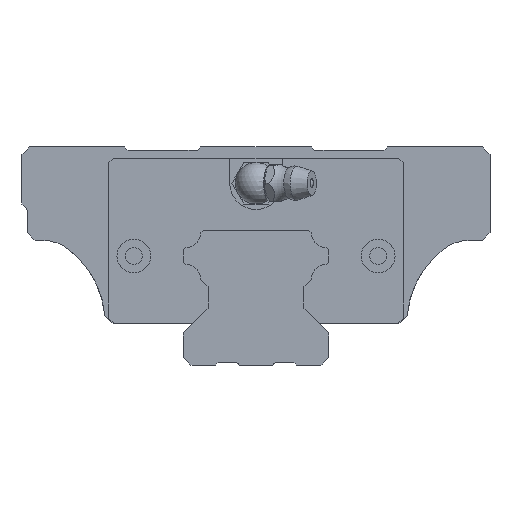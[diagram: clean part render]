
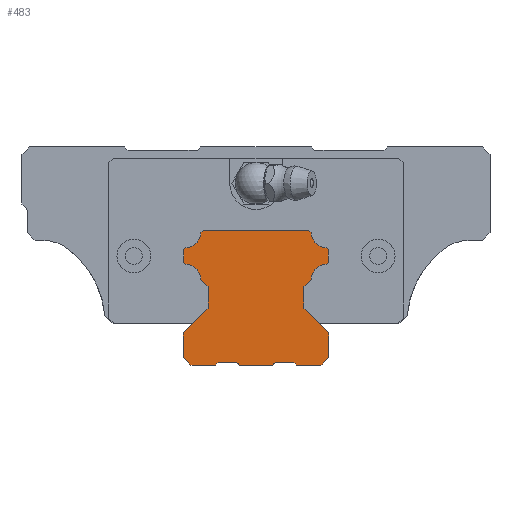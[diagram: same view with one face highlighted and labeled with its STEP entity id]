
A CAD part, front view. The second image highlights one B-rep face of the part: STEP entity #483.
In plain terms, the highlighted planar face has unit normal (0, -1, 0).
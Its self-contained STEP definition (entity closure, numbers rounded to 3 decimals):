
#314=CIRCLE('',#3957,3.1);
#316=CIRCLE('',#3963,3.1);
#327=CIRCLE('',#3996,3.1);
#329=CIRCLE('',#4002,3.1);
#483=ADVANCED_FACE('',(#832),#673,.T.);
#673=PLANE('',#4004);
#832=FACE_OUTER_BOUND('',#1027,.T.);
#1027=EDGE_LOOP('',(#1540,#1541,#1542,#1543,#1544,#1545,#1546,#1547,#1548,
#1549,#1550,#1551,#1552,#1553,#1554,#1555,#1556,#1557,#1558,#1559,#1560,
#1561,#1562,#1563,#1564,#1565,#1566,#1567,#1568,#1569,#1570,#1571));
#1540=ORIENTED_EDGE('',*,*,#2735,.T.);
#1541=ORIENTED_EDGE('',*,*,#2743,.F.);
#1542=ORIENTED_EDGE('',*,*,#2746,.F.);
#1543=ORIENTED_EDGE('',*,*,#2749,.F.);
#1544=ORIENTED_EDGE('',*,*,#2752,.F.);
#1545=ORIENTED_EDGE('',*,*,#2755,.T.);
#1546=ORIENTED_EDGE('',*,*,#2758,.T.);
#1547=ORIENTED_EDGE('',*,*,#2761,.F.);
#1548=ORIENTED_EDGE('',*,*,#2764,.T.);
#1549=ORIENTED_EDGE('',*,*,#2767,.T.);
#1550=ORIENTED_EDGE('',*,*,#2770,.F.);
#1551=ORIENTED_EDGE('',*,*,#2773,.T.);
#1552=ORIENTED_EDGE('',*,*,#2776,.T.);
#1553=ORIENTED_EDGE('',*,*,#2779,.F.);
#1554=ORIENTED_EDGE('',*,*,#2782,.T.);
#1555=ORIENTED_EDGE('',*,*,#2786,.T.);
#1556=ORIENTED_EDGE('',*,*,#2725,.F.);
#1557=ORIENTED_EDGE('',*,*,#2793,.T.);
#1558=ORIENTED_EDGE('',*,*,#2732,.T.);
#1559=ORIENTED_EDGE('',*,*,#2801,.F.);
#1560=ORIENTED_EDGE('',*,*,#2806,.F.);
#1561=ORIENTED_EDGE('',*,*,#2809,.T.);
#1562=ORIENTED_EDGE('',*,*,#2812,.F.);
#1563=ORIENTED_EDGE('',*,*,#2815,.F.);
#1564=ORIENTED_EDGE('',*,*,#2818,.F.);
#1565=ORIENTED_EDGE('',*,*,#2821,.F.);
#1566=ORIENTED_EDGE('',*,*,#2824,.F.);
#1567=ORIENTED_EDGE('',*,*,#2827,.F.);
#1568=ORIENTED_EDGE('',*,*,#2830,.F.);
#1569=ORIENTED_EDGE('',*,*,#2833,.F.);
#1570=ORIENTED_EDGE('',*,*,#2836,.T.);
#1571=ORIENTED_EDGE('',*,*,#2838,.F.);
#2332=VERTEX_POINT('',#5663);
#2333=VERTEX_POINT('',#5665);
#2334=VERTEX_POINT('',#5672);
#2337=VERTEX_POINT('',#5677);
#2340=VERTEX_POINT('',#5684);
#2341=VERTEX_POINT('',#5686);
#2347=VERTEX_POINT('',#5700);
#2349=VERTEX_POINT('',#5706);
#2351=VERTEX_POINT('',#5712);
#2353=VERTEX_POINT('',#5718);
#2355=VERTEX_POINT('',#5724);
#2357=VERTEX_POINT('',#5730);
#2359=VERTEX_POINT('',#5736);
#2361=VERTEX_POINT('',#5742);
#2363=VERTEX_POINT('',#5748);
#2365=VERTEX_POINT('',#5754);
#2367=VERTEX_POINT('',#5760);
#2369=VERTEX_POINT('',#5766);
#2371=VERTEX_POINT('',#5772);
#2373=VERTEX_POINT('',#5778);
#2379=VERTEX_POINT('',#5808);
#2381=VERTEX_POINT('',#5816);
#2383=VERTEX_POINT('',#5822);
#2385=VERTEX_POINT('',#5828);
#2387=VERTEX_POINT('',#5834);
#2389=VERTEX_POINT('',#5840);
#2391=VERTEX_POINT('',#5846);
#2393=VERTEX_POINT('',#5852);
#2395=VERTEX_POINT('',#5858);
#2397=VERTEX_POINT('',#5864);
#2399=VERTEX_POINT('',#5870);
#2401=VERTEX_POINT('',#5876);
#2725=EDGE_CURVE('',#2332,#2333,#3198,.T.);
#2732=EDGE_CURVE('',#2334,#2337,#3202,.T.);
#2735=EDGE_CURVE('',#2341,#2340,#3205,.T.);
#2743=EDGE_CURVE('',#2347,#2340,#3209,.T.);
#2746=EDGE_CURVE('',#2349,#2347,#3212,.T.);
#2749=EDGE_CURVE('',#2351,#2349,#314,.T.);
#2752=EDGE_CURVE('',#2353,#2351,#3216,.T.);
#2755=EDGE_CURVE('',#2353,#2355,#3219,.T.);
#2758=EDGE_CURVE('',#2355,#2357,#3222,.T.);
#2761=EDGE_CURVE('',#2359,#2357,#316,.T.);
#2764=EDGE_CURVE('',#2359,#2361,#3226,.T.);
#2767=EDGE_CURVE('',#2361,#2363,#3229,.T.);
#2770=EDGE_CURVE('',#2365,#2363,#3232,.T.);
#2773=EDGE_CURVE('',#2365,#2367,#3235,.T.);
#2776=EDGE_CURVE('',#2367,#2369,#3238,.T.);
#2779=EDGE_CURVE('',#2371,#2369,#3241,.T.);
#2782=EDGE_CURVE('',#2371,#2373,#3244,.T.);
#2786=EDGE_CURVE('',#2373,#2333,#3245,.T.);
#2793=EDGE_CURVE('',#2332,#2334,#3249,.T.);
#2801=EDGE_CURVE('',#2379,#2337,#3254,.T.);
#2806=EDGE_CURVE('',#2381,#2379,#3257,.T.);
#2809=EDGE_CURVE('',#2381,#2383,#3260,.T.);
#2812=EDGE_CURVE('',#2385,#2383,#3263,.T.);
#2815=EDGE_CURVE('',#2387,#2385,#3266,.T.);
#2818=EDGE_CURVE('',#2389,#2387,#3269,.T.);
#2821=EDGE_CURVE('',#2391,#2389,#3272,.T.);
#2824=EDGE_CURVE('',#2393,#2391,#3275,.T.);
#2827=EDGE_CURVE('',#2395,#2393,#327,.T.);
#2830=EDGE_CURVE('',#2397,#2395,#3279,.T.);
#2833=EDGE_CURVE('',#2399,#2397,#3282,.T.);
#2836=EDGE_CURVE('',#2399,#2401,#3285,.T.);
#2838=EDGE_CURVE('',#2341,#2401,#329,.T.);
#3198=LINE('',#5664,#3557);
#3202=LINE('',#5678,#3561);
#3205=LINE('',#5685,#3564);
#3209=LINE('',#5701,#3568);
#3212=LINE('',#5707,#3571);
#3216=LINE('',#5719,#3575);
#3219=LINE('',#5725,#3578);
#3222=LINE('',#5731,#3581);
#3226=LINE('',#5743,#3585);
#3229=LINE('',#5749,#3588);
#3232=LINE('',#5755,#3591);
#3235=LINE('',#5761,#3594);
#3238=LINE('',#5767,#3597);
#3241=LINE('',#5773,#3600);
#3244=LINE('',#5779,#3603);
#3245=LINE('',#5784,#3604);
#3249=LINE('',#5795,#3608);
#3254=LINE('',#5809,#3613);
#3257=LINE('',#5817,#3616);
#3260=LINE('',#5823,#3619);
#3263=LINE('',#5829,#3622);
#3266=LINE('',#5835,#3625);
#3269=LINE('',#5841,#3628);
#3272=LINE('',#5847,#3631);
#3275=LINE('',#5853,#3634);
#3279=LINE('',#5865,#3638);
#3282=LINE('',#5871,#3641);
#3285=LINE('',#5877,#3644);
#3557=VECTOR('',#4423,1.);
#3561=VECTOR('',#4437,1.);
#3564=VECTOR('',#4442,1.);
#3568=VECTOR('',#4456,1.);
#3571=VECTOR('',#4461,1.);
#3575=VECTOR('',#4473,1.);
#3578=VECTOR('',#4478,1.);
#3581=VECTOR('',#4483,1.);
#3585=VECTOR('',#4495,1.);
#3588=VECTOR('',#4500,1.);
#3591=VECTOR('',#4505,1.);
#3594=VECTOR('',#4510,1.);
#3597=VECTOR('',#4515,1.);
#3600=VECTOR('',#4520,1.);
#3603=VECTOR('',#4525,1.);
#3604=VECTOR('',#4534,1.);
#3608=VECTOR('',#4548,1.);
#3613=VECTOR('',#4563,1.);
#3616=VECTOR('',#4572,1.);
#3619=VECTOR('',#4577,1.);
#3622=VECTOR('',#4582,1.);
#3625=VECTOR('',#4587,1.);
#3628=VECTOR('',#4592,1.);
#3631=VECTOR('',#4597,1.);
#3634=VECTOR('',#4602,1.);
#3638=VECTOR('',#4614,1.);
#3641=VECTOR('',#4619,1.);
#3644=VECTOR('',#4624,1.);
#3957=AXIS2_PLACEMENT_3D('',#5713,#4467,#4468);
#3963=AXIS2_PLACEMENT_3D('',#5737,#4489,#4490);
#3996=AXIS2_PLACEMENT_3D('',#5859,#4608,#4609);
#4002=AXIS2_PLACEMENT_3D('',#5880,#4629,#4630);
#4004=AXIS2_PLACEMENT_3D('',#5882,#4633,#4634);
#4423=DIRECTION('',(-0.707,0.,0.707));
#4437=DIRECTION('',(0.707,0.,0.707));
#4442=DIRECTION('',(-0.707,0.,0.707));
#4456=DIRECTION('',(1.,0.,0.));
#4461=DIRECTION('',(0.707,0.,0.707));
#4467=DIRECTION('',(0.,-1.,0.));
#4468=DIRECTION('',(1.,0.,0.));
#4473=DIRECTION('',(0.707,0.,0.707));
#4478=DIRECTION('',(0.,0.,-1.));
#4483=DIRECTION('',(0.707,0.,-0.707));
#4489=DIRECTION('',(0.,-1.,0.));
#4490=DIRECTION('',(1.,0.,0.));
#4495=DIRECTION('',(0.707,0.,-0.707));
#4500=DIRECTION('',(0.,0.,-1.));
#4505=DIRECTION('',(0.707,0.,0.707));
#4510=DIRECTION('',(0.,0.,-1.));
#4515=DIRECTION('',(0.707,0.,-0.707));
#4520=DIRECTION('',(-1.,0.,0.));
#4525=DIRECTION('',(0.707,0.,0.707));
#4534=DIRECTION('',(1.,0.,0.));
#4548=DIRECTION('',(1.,0.,0.));
#4563=DIRECTION('',(-1.,0.,0.));
#4572=DIRECTION('',(-0.707,0.,0.707));
#4577=DIRECTION('',(1.,0.,0.));
#4582=DIRECTION('',(-0.707,0.,-0.707));
#4587=DIRECTION('',(0.,0.,-1.));
#4592=DIRECTION('',(0.707,0.,-0.707));
#4597=DIRECTION('',(0.,0.,-1.));
#4602=DIRECTION('',(-0.707,0.,-0.707));
#4608=DIRECTION('',(0.,-1.,0.));
#4609=DIRECTION('',(1.,0.,0.));
#4614=DIRECTION('',(-0.707,0.,-0.707));
#4619=DIRECTION('',(0.,0.,-1.));
#4624=DIRECTION('',(-0.707,0.,0.707));
#4629=DIRECTION('',(0.,-1.,0.));
#4630=DIRECTION('',(1.,0.,0.));
#4633=DIRECTION('',(0.,-1.,0.));
#4634=DIRECTION('',(0.,0.,-1.));
#5663=CARTESIAN_POINT('',(-3.2,-167.7,-43.7));
#5664=CARTESIAN_POINT('',(-3.2,-167.7,-43.7));
#5665=CARTESIAN_POINT('',(-3.7,-167.7,-43.2));
#5672=CARTESIAN_POINT('',(3.2,-167.7,-43.7));
#5677=CARTESIAN_POINT('',(3.7,-167.7,-43.2));
#5678=CARTESIAN_POINT('',(3.2,-167.7,-43.7));
#5684=CARTESIAN_POINT('',(10.171,-167.7,-17.77));
#5685=CARTESIAN_POINT('',(10.583,-167.7,-18.182));
#5686=CARTESIAN_POINT('',(10.583,-167.7,-18.182));
#5700=CARTESIAN_POINT('',(-10.171,-167.7,-17.77));
#5701=CARTESIAN_POINT('',(-10.171,-167.7,-17.77));
#5706=CARTESIAN_POINT('',(-10.583,-167.7,-18.182));
#5707=CARTESIAN_POINT('',(-10.583,-167.7,-18.182));
#5712=CARTESIAN_POINT('',(-13.518,-167.7,-21.117));
#5713=CARTESIAN_POINT('',(-13.679,-167.7,-18.021));
#5718=CARTESIAN_POINT('',(-13.93,-167.7,-21.529));
#5719=CARTESIAN_POINT('',(-13.93,-167.7,-21.529));
#5724=CARTESIAN_POINT('',(-13.93,-167.7,-23.871));
#5725=CARTESIAN_POINT('',(-13.93,-167.7,-21.529));
#5730=CARTESIAN_POINT('',(-13.518,-167.7,-24.283));
#5731=CARTESIAN_POINT('',(-13.93,-167.7,-23.871));
#5736=CARTESIAN_POINT('',(-10.583,-167.7,-27.218));
#5737=CARTESIAN_POINT('',(-13.679,-167.7,-27.379));
#5742=CARTESIAN_POINT('',(-9.23,-167.7,-28.571));
#5743=CARTESIAN_POINT('',(-10.583,-167.7,-27.218));
#5748=CARTESIAN_POINT('',(-9.23,-167.7,-32.729));
#5749=CARTESIAN_POINT('',(-9.23,-167.7,-28.571));
#5754=CARTESIAN_POINT('',(-14.,-167.7,-37.499));
#5755=CARTESIAN_POINT('',(-14.,-167.7,-37.499));
#5760=CARTESIAN_POINT('',(-14.,-167.7,-42.2));
#5761=CARTESIAN_POINT('',(-14.,-167.7,-37.499));
#5766=CARTESIAN_POINT('',(-12.5,-167.7,-43.7));
#5767=CARTESIAN_POINT('',(-14.,-167.7,-42.2));
#5772=CARTESIAN_POINT('',(-7.8,-167.7,-43.7));
#5773=CARTESIAN_POINT('',(-7.8,-167.7,-43.7));
#5778=CARTESIAN_POINT('',(-7.3,-167.7,-43.2));
#5779=CARTESIAN_POINT('',(-7.8,-167.7,-43.7));
#5784=CARTESIAN_POINT('',(-7.3,-167.7,-43.2));
#5795=CARTESIAN_POINT('',(-3.2,-167.7,-43.7));
#5808=CARTESIAN_POINT('',(7.3,-167.7,-43.2));
#5809=CARTESIAN_POINT('',(7.3,-167.7,-43.2));
#5816=CARTESIAN_POINT('',(7.8,-167.7,-43.7));
#5817=CARTESIAN_POINT('',(7.8,-167.7,-43.7));
#5822=CARTESIAN_POINT('',(12.5,-167.7,-43.7));
#5823=CARTESIAN_POINT('',(7.8,-167.7,-43.7));
#5828=CARTESIAN_POINT('',(14.,-167.7,-42.2));
#5829=CARTESIAN_POINT('',(14.,-167.7,-42.2));
#5834=CARTESIAN_POINT('',(14.,-167.7,-37.499));
#5835=CARTESIAN_POINT('',(14.,-167.7,-37.499));
#5840=CARTESIAN_POINT('',(9.23,-167.7,-32.729));
#5841=CARTESIAN_POINT('',(9.23,-167.7,-32.729));
#5846=CARTESIAN_POINT('',(9.23,-167.7,-28.571));
#5847=CARTESIAN_POINT('',(9.23,-167.7,-28.571));
#5852=CARTESIAN_POINT('',(10.583,-167.7,-27.218));
#5853=CARTESIAN_POINT('',(10.583,-167.7,-27.218));
#5858=CARTESIAN_POINT('',(13.518,-167.7,-24.283));
#5859=CARTESIAN_POINT('',(13.679,-167.7,-27.379));
#5864=CARTESIAN_POINT('',(13.93,-167.7,-23.871));
#5865=CARTESIAN_POINT('',(13.93,-167.7,-23.871));
#5870=CARTESIAN_POINT('',(13.93,-167.7,-21.529));
#5871=CARTESIAN_POINT('',(13.93,-167.7,-21.529));
#5876=CARTESIAN_POINT('',(13.518,-167.7,-21.117));
#5877=CARTESIAN_POINT('',(13.93,-167.7,-21.529));
#5880=CARTESIAN_POINT('',(13.679,-167.7,-18.021));
#5882=CARTESIAN_POINT('',(-13.679,-167.7,-18.021));
